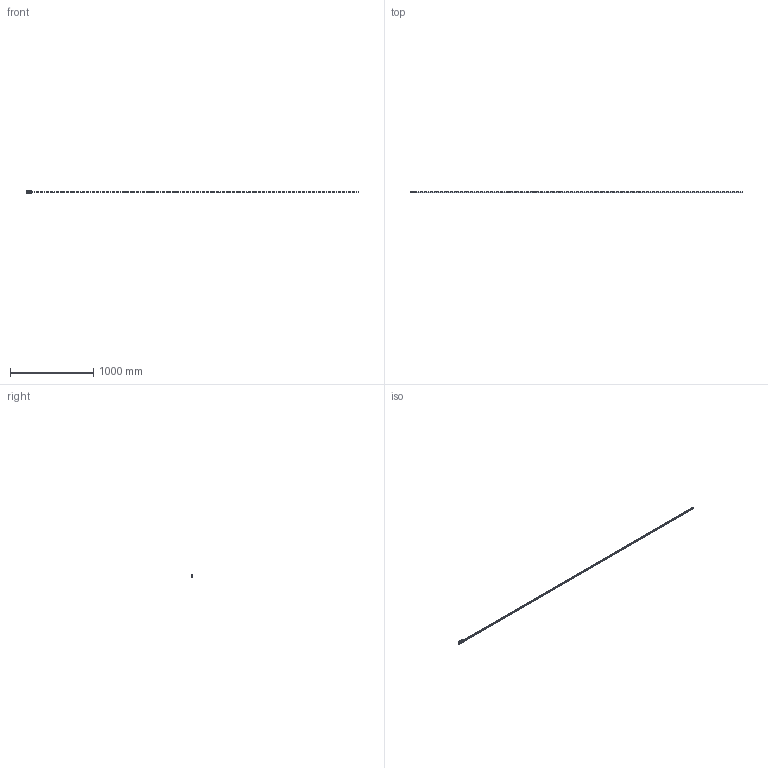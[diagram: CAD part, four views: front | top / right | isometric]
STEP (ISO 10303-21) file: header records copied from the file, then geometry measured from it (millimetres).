
FILE_DESCRIPTION( ( 'STEP AP203' ), '1' );
FILE_NAME( 'p:/temp/worker_19/temp/exporttempdir_2248_59_nM7li/format_0/FDG12 84494LN_4000-0.stp', '2021-04-27T06:44:13', ( 'License CC BY-ND 4.0' ), ( 'CADENAS' ), ' ', 'PARTsolutions', ' ' );
FILE_SCHEMA( ( 'CONFIG_CONTROL_DESIGN' ) );
Length unit declared in the file: millimetre
Products named in the file (3): FDG12 84494LN_4000-0; _FD_12K-4000-0; _FD_12K Rollenhalter
Assembly tree (2 placements, depth 2):
  FDG12 84494LN_4000-0
    _FD_12K-4000-0
    _FD_12K Rollenhalter
Bounding box: 4000 x 19 x 37 mm (x, y, z)
Volume: 551617.7 mm3; surface area: 267945.8 mm2
Topology: 2 solids, 2 shells, 792 faces, 2070 edges, 1405 vertices
Faces by surface type: plane 402, cylinder 378, torus 8, cone 4
Full cylindrical faces by diameter (mm): 2.1 x1, 3.242 x4, 3.4 x100, 4.5 x4, 5.5 x8, 6 x108
Entity records: 23044 total; most frequent: DIRECTION 4070, CARTESIAN_POINT 3869, ORIENTED_EDGE 3448, EDGE_CURVE 1724, AXIS2_PLACEMENT_3D 1565, EDGE_LOOP 1360, VERTEX_POINT 1292, FACE_OUTER_BOUND 1025
